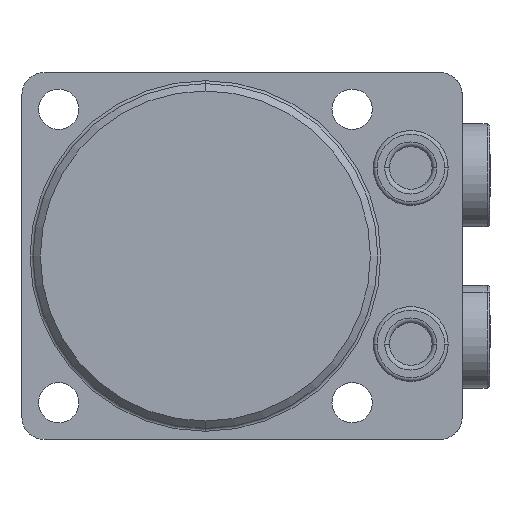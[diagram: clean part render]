
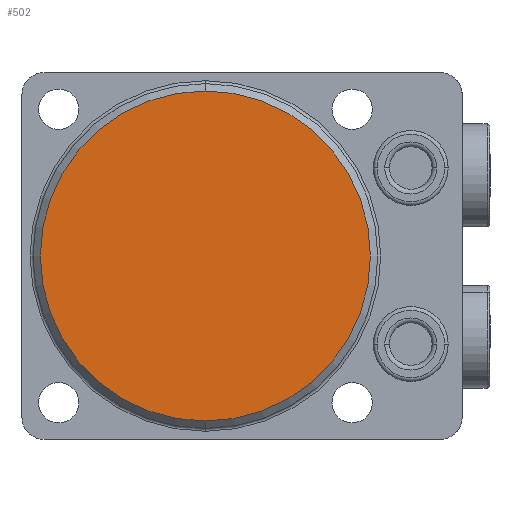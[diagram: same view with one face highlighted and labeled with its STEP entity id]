
A CAD part, front view. The second image highlights one B-rep face of the part: STEP entity #502.
In plain terms, the highlighted planar face has unit normal (0, -1, 0) as drawn and (0, 1, 0) by its records, which use the part's own axes.
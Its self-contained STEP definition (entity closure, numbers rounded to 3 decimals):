
#220=PLANE('',#3308);
#502=ADVANCED_FACE('',(#710),#220,.T.);
#710=FACE_OUTER_BOUND('',#898,.F.);
#898=EDGE_LOOP('',(#1901,#1902));
#1901=ORIENTED_EDGE('',*,*,#2756,.T.);
#1902=ORIENTED_EDGE('',*,*,#2695,.T.);
#2337=VERTEX_POINT('',#5137);
#2338=VERTEX_POINT('',#5138);
#2695=EDGE_CURVE('',#2337,#2338,#2956,.T.);
#2756=EDGE_CURVE('',#2338,#2337,#2978,.T.);
#2956=CIRCLE('',#3272,22.5);
#2978=CIRCLE('',#3307,22.5);
#3272=AXIS2_PLACEMENT_3D('',#5136,#4043,#4044);
#3307=AXIS2_PLACEMENT_3D('',#5266,#4147,#4148);
#3308=AXIS2_PLACEMENT_3D('',#5267,#4149,#4150);
#4043=DIRECTION('',(0.,-1.,0.));
#4044=DIRECTION('',(0.,0.,1.));
#4147=DIRECTION('',(0.,-1.,0.));
#4148=DIRECTION('',(0.,0.,1.));
#4149=DIRECTION('',(0.,1.,0.));
#4150=DIRECTION('',(0.,0.,1.));
#5136=CARTESIAN_POINT('',(0.,0.,0.));
#5137=CARTESIAN_POINT('',(0.,0.,-22.5));
#5138=CARTESIAN_POINT('',(0.,0.,22.5));
#5266=CARTESIAN_POINT('',(0.,0.,0.));
#5267=CARTESIAN_POINT('',(-25.,0.,25.));
